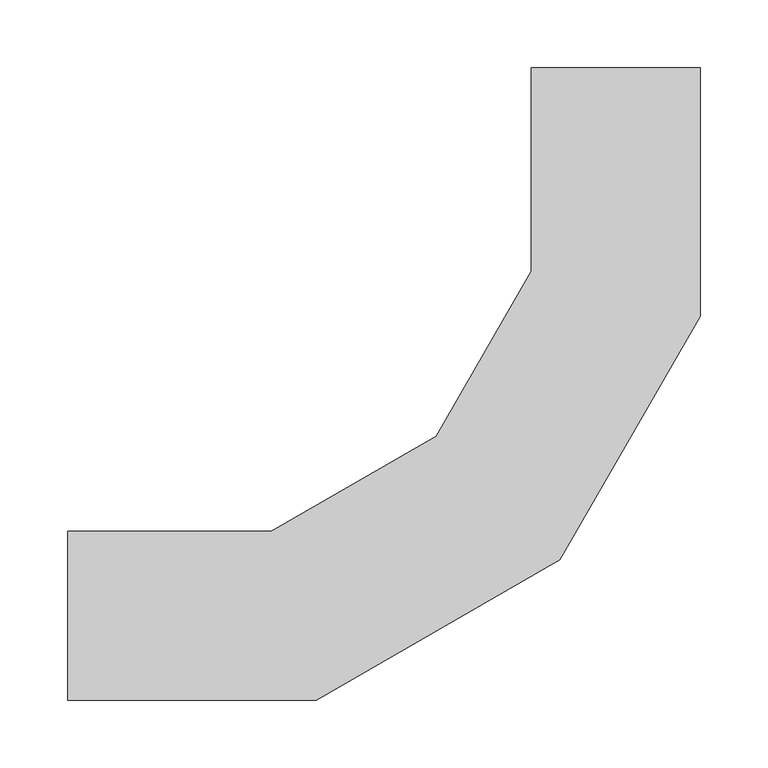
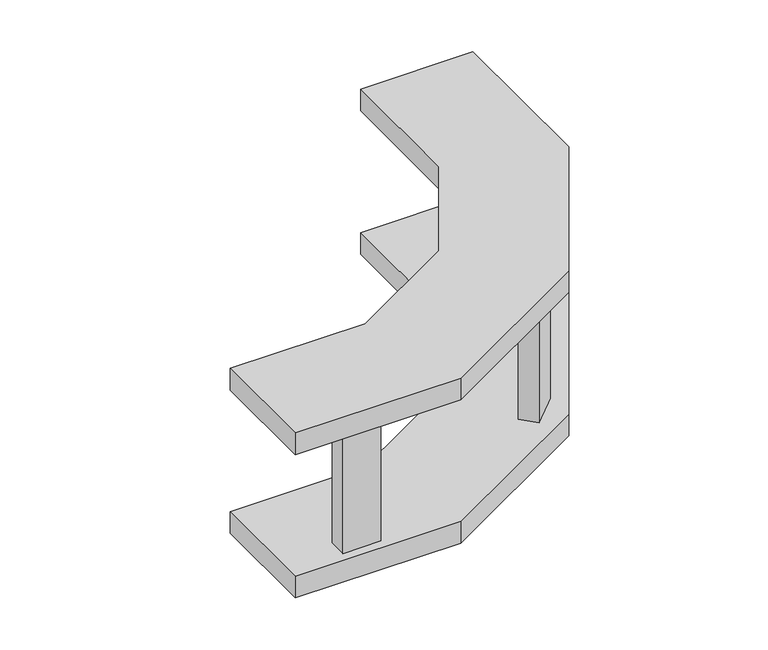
"""IFC4 building model written with IfcOpenShell, lengths in millimetres: cable carrier fitting geometry, Legrand_CableLadder_Swifts_Sapphire_InsideRiser-13 : Hot Dip Galvanised (after manufacture)."""

import ifcopenshell
import ifcopenshell.guid

model = None  # the IFC model being written
_history = None  # IfcOwnerHistory: only IFC2X3 demands one
_inside = {}  # id of a spatial element -> (the spatial element, [elements in it])
_under = {}  # id of a project, library or spatial element -> (it, [spatial elements below it])
_declared = {}  # id of a project -> (the project, [libraries it declares])
_typed = {}  # id of a type object -> (the type object, [elements of that type])
_made_of = {}  # id of a material, layer set ... -> (it, [elements and type objects made of it])


def new_model(schema):
    """Start an empty IFC model of exactly this schema.

    Asked for "IFC4X3", IfcOpenShell would pick the latest addendum, in which some entities
    have other attributes; the version numbers below select the first issue.
    IFC2X3 requires an IfcOwnerHistory on every rooted entity: one is made here for all.
    """
    global model, _history
    if schema == "IFC4X3":
        model = ifcopenshell.file(schema_version=(4, 3, 0, 0))
    else:
        model = ifcopenshell.file(schema=schema)
    _inside.clear()
    _under.clear()
    _declared.clear()
    _typed.clear()
    _made_of.clear()
    _history = None
    if model.schema == "IFC2X3":
        org = make("IfcOrganization", Name="unknown")
        user = make(
            "IfcPersonAndOrganization",
            ThePerson=make("IfcPerson", FamilyName="unknown"),
            TheOrganization=org,
        )
        app = make(
            "IfcApplication",
            ApplicationDeveloper=org,
            Version="unknown",
            ApplicationFullName="unknown",
            ApplicationIdentifier="unknown",
        )
        _history = make(
            "IfcOwnerHistory",
            OwningUser=user,
            OwningApplication=app,
            ChangeAction="ADDED",
            CreationDate=0,
        )
    return model


def make(cls, **values):
    """One entity of the class cls with the attributes given. An attribute that is None is left unset."""
    return model.create_entity(
        cls, **{name: value for name, value in values.items() if value is not None}
    )


def rooted(cls, **values):
    """An entity with a GlobalId (a new one), such as an element, a storey or a relation."""
    return make(cls, GlobalId=ifcopenshell.guid.new(), OwnerHistory=_history, **values)


def si_unit(unit_type, name, prefix=None):
    """IfcSIUnit, for example si_unit("LENGTHUNIT", "METRE", prefix="MILLI")."""
    return make("IfcSIUnit", UnitType=unit_type, Prefix=prefix, Name=name)


def assignment(units):
    """IfcUnitAssignment: the units of a project."""
    return None if units is None else make("IfcUnitAssignment", Units=units)


def point(xyz):
    """IfcCartesianPoint."""
    return None if xyz is None else make("IfcCartesianPoint", Coordinates=xyz)


def direction(xyz):
    """IfcDirection."""
    return None if xyz is None else make("IfcDirection", DirectionRatios=xyz)


def frame(location, z_axis=None, x_axis=None):
    """IfcAxis2Placement3D, a coordinate frame: its origin and axes. An axis left out is left unset."""
    return make(
        "IfcAxis2Placement3D",
        Location=point(location),
        Axis=direction(z_axis),
        RefDirection=direction(x_axis),
    )


def origin():
    """The frame at (0, 0, 0) with its axes left unset."""
    return frame((0.0, 0.0, 0.0))


def place(relative_to, where):
    """IfcLocalPlacement: puts the frame where relative to a parent placement (None: the world)."""
    return make(
        "IfcLocalPlacement", PlacementRelTo=relative_to, RelativePlacement=where
    )


def context(
    kind, dimensions, precision=None, world=None, true_north=None, identifier=None
):
    """IfcGeometricRepresentationContext, for example the 3D "Model" context."""
    return make(
        "IfcGeometricRepresentationContext",
        ContextIdentifier=identifier,
        ContextType=kind,
        CoordinateSpaceDimension=dimensions,
        Precision=precision,
        WorldCoordinateSystem=world,
        TrueNorth=true_north,
    )


def project(units=None, contexts=None):
    """IfcProject with its units and contexts."""
    return rooted(
        "IfcProject",
        Name="project",
        RepresentationContexts=contexts,
        UnitsInContext=assignment(units),
    )


def spatial(cls, under=None, at=None, **own):
    """A site, building, storey or space (cls), placed at a placement, below another one or the project."""
    s = rooted(cls, ObjectPlacement=at, **own)
    if under is not None:
        _under.setdefault(under.id(), (under, []))[1].append(s)
    return s


def polyline(points):
    """IfcPolyline through the points."""
    return make("IfcPolyline", Points=[point(p) for p in points])


def outline(outer, holes=None, kind="AREA"):
    """IfcArbitraryClosedProfileDef: a profile drawn as a closed curve; with holes, ...WithVoids."""
    if holes is None:
        return make("IfcArbitraryClosedProfileDef", ProfileType=kind, OuterCurve=outer)
    return make(
        "IfcArbitraryProfileDefWithVoids",
        ProfileType=kind,
        OuterCurve=outer,
        InnerCurves=holes,
    )


def extrude(swept, where, along, depth):
    """IfcExtrudedAreaSolid: the profile swept, set in the frame where, extruded along a direction by depth."""
    return make(
        "IfcExtrudedAreaSolid",
        SweptArea=swept,
        Position=where,
        ExtrudedDirection=direction(along),
        Depth=depth,
    )


def shape(context_of_items, identifier, shape_type, items):
    """IfcShapeRepresentation: the items that make up one representation, for example the "Body"."""
    return make(
        "IfcShapeRepresentation",
        ContextOfItems=context_of_items,
        RepresentationIdentifier=identifier,
        RepresentationType=shape_type,
        Items=items,
    )


def source(mapping_origin, context_of_items, identifier, shape_type, items):
    """IfcRepresentationMap: a shape defined once, which mapped items show again and again."""
    return make(
        "IfcRepresentationMap",
        MappingOrigin=mapping_origin,
        MappedRepresentation=shape(context_of_items, identifier, shape_type, items),
    )


def transform(
    local_origin,
    x_axis=None,
    y_axis=None,
    z_axis=None,
    scale=None,
    scale2=None,
    scale3=None,
    uniform=True,
):
    """IfcCartesianTransformationOperator3D, or its non-uniform kind. x_axis, y_axis, z_axis: its Axis1, 2, 3."""
    if uniform:
        return make(
            "IfcCartesianTransformationOperator3D",
            Axis1=direction(x_axis),
            Axis2=direction(y_axis),
            LocalOrigin=point(local_origin),
            Scale=scale,
            Axis3=direction(z_axis),
        )
    return make(
        "IfcCartesianTransformationOperator3DnonUniform",
        Axis1=direction(x_axis),
        Axis2=direction(y_axis),
        LocalOrigin=point(local_origin),
        Scale=scale,
        Axis3=direction(z_axis),
        Scale2=scale2,
        Scale3=scale3,
    )


def mapped(mapping_source, mapping_target):
    """IfcMappedItem: shows the shape of a source again, moved by a transform."""
    return make(
        "IfcMappedItem", MappingSource=mapping_source, MappingTarget=mapping_target
    )


def made_of(thing, what):
    """Note that an element or type object is made of a material, layer set ...; save() writes the relation."""
    if what is not None:
        _made_of.setdefault(what.id(), (what, []))[1].append(thing)
    return thing


def element(
    cls,
    number,
    at=None,
    inside=None,
    cuts=None,
    type_object=None,
    material=None,
    context=None,
    identifier="Body",
    shape_type=None,
    held_by="IfcProductDefinitionShape",
    body=None,
    shapes=None,
    **own,
):
    """One element of the class cls, such as IfcWall. Its Tag is "e" and its number.

    at: its placement. inside: the storey or other place that contains it. cuts: it is an
    opening in that element (IfcRelVoidsElement). A single representation is given by context,
    identifier, shape_type and body (its items); several are given by shapes. held_by: the class
    of the entity that holds the representations. save() writes the other relations.
    """
    e = rooted(cls, Tag="e%d" % number, ObjectPlacement=at, **own)
    if body is not None:
        shapes = [shape(context, identifier, shape_type, body)]
    if shapes is not None:
        e.Representation = make(held_by, Representations=shapes)
    if inside is not None:
        _inside.setdefault(inside.id(), (inside, []))[1].append(e)
    if cuts is not None:
        rooted(
            "IfcRelVoidsElement", RelatingBuildingElement=cuts, RelatedOpeningElement=e
        )
    if type_object is not None:
        _typed.setdefault(type_object.id(), (type_object, []))[1].append(e)
    return made_of(e, material)


def aggregate(whole, parts):
    """IfcRelAggregates: a whole, such as a stair, and the parts it consists of."""
    return rooted("IfcRelAggregates", RelatingObject=whole, RelatedObjects=parts)


def save(model, path):
    """Write the relations noted so far, then the file.

    IfcRelAggregates (storeys below a building ...), IfcRelContainedInSpatialStructure (elements
    in a storey), IfcRelDefinesByType, IfcRelAssociatesMaterial and IfcRelDeclares: one each for
    every whole, place, type object, material and project.
    """
    for whole, parts in _under.values():
        aggregate(whole, parts)
    for where, things in _inside.values():
        rooted(
            "IfcRelContainedInSpatialStructure",
            RelatedElements=things,
            RelatingStructure=where,
        )
    for kind, things in _typed.values():
        rooted("IfcRelDefinesByType", RelatedObjects=things, RelatingType=kind)
    for what, things in _made_of.values():
        rooted("IfcRelAssociatesMaterial", RelatedObjects=things, RelatingMaterial=what)
    for by, libraries in _declared.values():
        rooted("IfcRelDeclares", RelatingContext=by, RelatedDefinitions=libraries)
    model.write(path)


def cable_carrier_fitting_443c3c15(model_context):
    return source(origin(), model_context, "Body", "SweptSolid", [
        extrude(outline(polyline([(-87.9121215, 58.2136367), (-58.2136367, 87.9121215), (-43.3643943, 73.0628791), (-73.0628791, 43.3643943), (-87.9121215, 58.2136367)])), frame((0.0, 0.0, -71.5), z_axis=(0.0, 0.0, 1.0), x_axis=(1.0, 0.0, 0.0)), (0.0, 0.0, 1.0), 143.0),
        extrude(outline(polyline([(-346.5, -31.5), (-304.5, -31.5), (-304.5, -52.5), (-346.5, -52.5), (-346.5, -31.5)])), frame((0.0, 0.0, -71.5), z_axis=(0.0, 0.0, 1.0), x_axis=(1.0, 0.0, 0.0)), (0.0, 0.0, 1.0), 143.0),
        extrude(outline(polyline([(31.5, 304.5), (31.5, 346.5), (52.5, 346.5), (52.5, 304.5), (31.5, 304.5)])), frame((0.0, 0.0, -71.5), z_axis=(0.0, 0.0, 1.0), x_axis=(1.0, 0.0, 0.0)), (0.0, 0.0, 1.0), 143.0),
        extrude(outline(polyline([(-221.5357133, -62.5), (-405.5, -62.5), (-405.5, 62.5), (-255.0293624, 62.5), (-132.9706376, 132.9706376), (-62.5, 255.0293624), (-62.5, 405.5), (62.5, 405.5), (62.5, 221.5357133), (-41.4642867, 41.4642867), (-221.5357133, -62.5)])), frame((0.0, 0.0, -97.0), z_axis=(0.0, 0.0, 1.0), x_axis=(1.0, 0.0, 0.0)), (0.0, 0.0, 1.0), 25.5),
        extrude(outline(polyline([(-405.5, -62.5), (-405.5, 62.5), (-255.0293624, 62.5), (-132.9706376, 132.9706376), (-62.5, 255.0293624), (-62.5, 405.5), (62.5, 405.5), (62.5, 221.5357133), (-41.4642867, 41.4642867), (-221.5357133, -62.5), (-405.5, -62.5)])), frame((0.0, 0.0, 71.5), z_axis=(0.0, 0.0, 1.0), x_axis=(1.0, 0.0, 0.0)), (0.0, 0.0, 1.0), 25.5),
    ])


if __name__ == "__main__":
    model = new_model("IFC4")
    model_context = context("Model", 3, world=origin())
    ifc_project = project(units=[si_unit("LENGTHUNIT", "METRE", prefix="MILLI")], contexts=[model_context])
    site = spatial("IfcSite", under=ifc_project)
    building = spatial("IfcBuilding", under=site)
    placement = place(None, origin())
    cable_carrier_fitting_shape = cable_carrier_fitting_443c3c15(model_context)
    element("IfcCableCarrierFitting", 1, ObjectType="Legrand_CableLadder_Swifts_Sapphire_InsideRiser-13 : Hot Dip Galvanised (after manufacture)", at=placement, inside=building, context=model_context, shape_type="MappedRepresentation", body=[
        mapped(cable_carrier_fitting_shape, transform((0.0, 0.0, 0.0), x_axis=(1.0, 0.0, 0.0), y_axis=(0.0, 1.0, 0.0), z_axis=(0.0, 0.0, 1.0))),
    ])
    save(model, "model.ifc")
